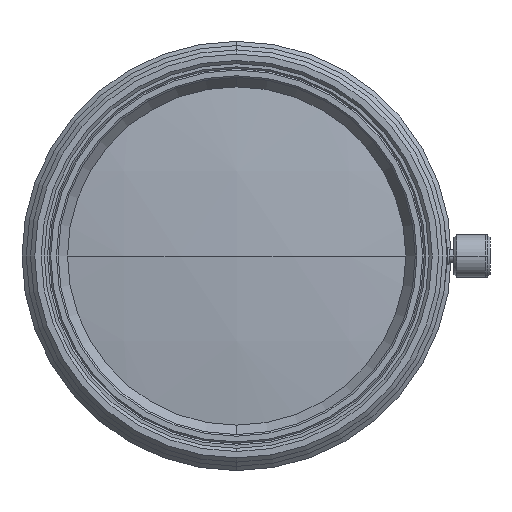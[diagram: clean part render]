
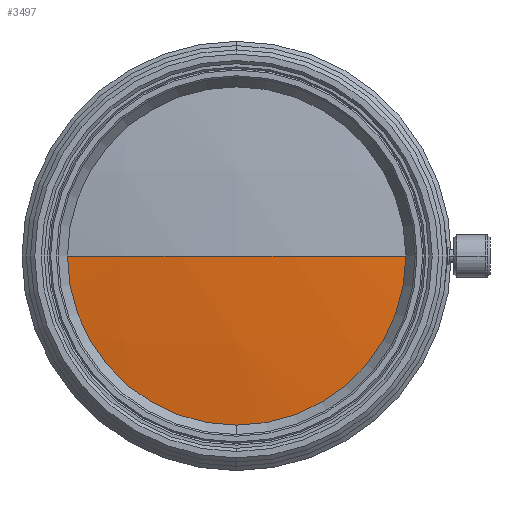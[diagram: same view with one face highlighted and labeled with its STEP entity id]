
A CAD part, left-side view. The second image highlights one B-rep face of the part: STEP entity #3497.
In plain terms, the highlighted spherical face has radius 149 mm.
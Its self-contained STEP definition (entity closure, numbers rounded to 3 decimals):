
#29 = CIRCLE ( 'NONE', #3413, 149. ) ;
#104 = AXIS2_PLACEMENT_3D ( 'NONE', #930, #3336, #1265 ) ;
#207 = VERTEX_POINT ( 'NONE', #3460 ) ;
#244 = DIRECTION ( 'NONE',  ( -1., 0., 0. ) ) ;
#342 = CARTESIAN_POINT ( 'NONE',  ( 6.023, 19.9, 0. ) ) ;
#556 = DIRECTION ( 'NONE',  ( 0., 0., -1. ) ) ;
#930 = CARTESIAN_POINT ( 'NONE',  ( 6.023, 0., 0. ) ) ;
#942 = EDGE_CURVE ( 'NONE', #1532, #2566, #4376, .T. ) ;
#970 = AXIS2_PLACEMENT_3D ( 'NONE', #1636, #4074, #1982 ) ;
#1031 = DIRECTION ( 'NONE',  ( 0., 1., 0. ) ) ;
#1265 = DIRECTION ( 'NONE',  ( 0., 0., 1. ) ) ;
#1347 = CARTESIAN_POINT ( 'NONE',  ( 153.688, 0., 0. ) ) ;
#1532 = VERTEX_POINT ( 'NONE', #1916 ) ;
#1636 = CARTESIAN_POINT ( 'NONE',  ( 153.688, 0., 0. ) ) ;
#1640 = ORIENTED_EDGE ( 'NONE', *, *, #2362, .T. ) ;
#1726 = CIRCLE ( 'NONE', #104, 19.9 ) ;
#1744 = ORIENTED_EDGE ( 'NONE', *, *, #942, .T. ) ;
#1835 = EDGE_CURVE ( 'NONE', #2566, #207, #29, .T. ) ;
#1916 = CARTESIAN_POINT ( 'NONE',  ( 6.023, 0., -19.9 ) ) ;
#1981 = EDGE_CURVE ( 'NONE', #2478, #207, #4196, .T. ) ;
#1982 = DIRECTION ( 'NONE',  ( 1., 0., 0. ) ) ;
#2292 = CARTESIAN_POINT ( 'NONE',  ( 6.023, 0., 0. ) ) ;
#2362 = EDGE_CURVE ( 'NONE', #2478, #1532, #1726, .T. ) ;
#2419 = ORIENTED_EDGE ( 'NONE', *, *, #1835, .T. ) ;
#2423 = CARTESIAN_POINT ( 'NONE',  ( 6.023, -19.9, 0. ) ) ;
#2478 = VERTEX_POINT ( 'NONE', #342 ) ;
#2566 = VERTEX_POINT ( 'NONE', #2423 ) ;
#2585 = AXIS2_PLACEMENT_3D ( 'NONE', #2292, #244, #2646 ) ;
#2611 = CARTESIAN_POINT ( 'NONE',  ( 153.688, 0., 0. ) ) ;
#2646 = DIRECTION ( 'NONE',  ( 0., 0., 1. ) ) ;
#2716 = SPHERICAL_SURFACE ( 'NONE', #4435, 149. ) ;
#2966 = DIRECTION ( 'NONE',  ( 0., 1., 0. ) ) ;
#3066 = ORIENTED_EDGE ( 'NONE', *, *, #1981, .F. ) ;
#3083 = DIRECTION ( 'NONE',  ( 0., 0., -1. ) ) ;
#3336 = DIRECTION ( 'NONE',  ( -1., 0., 0. ) ) ;
#3413 = AXIS2_PLACEMENT_3D ( 'NONE', #2611, #556, #2966 ) ;
#3460 = CARTESIAN_POINT ( 'NONE',  ( 4.688, 0., 0. ) ) ;
#3497 = ADVANCED_FACE ( 'NONE', ( #4360 ), #2716, .T. ) ;
#4074 = DIRECTION ( 'NONE',  ( 0., 0., 1. ) ) ;
#4196 = CIRCLE ( 'NONE', #970, 149. ) ;
#4360 = FACE_OUTER_BOUND ( 'NONE', #4408, .T. ) ;
#4376 = CIRCLE ( 'NONE', #2585, 19.9 ) ;
#4408 = EDGE_LOOP ( 'NONE', ( #1744, #2419, #3066, #1640 ) ) ;
#4435 = AXIS2_PLACEMENT_3D ( 'NONE', #1347, #3083, #1031 ) ;
